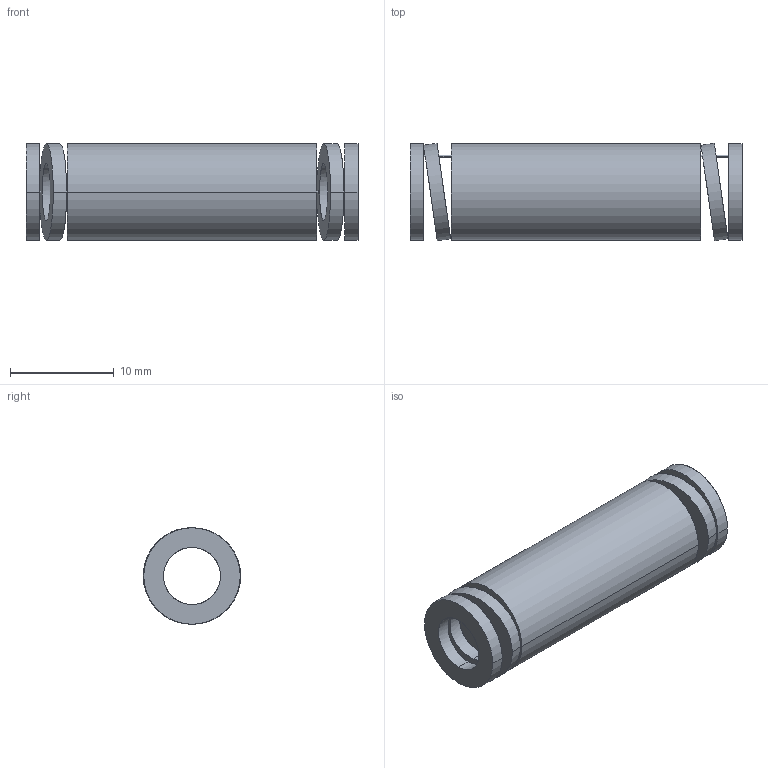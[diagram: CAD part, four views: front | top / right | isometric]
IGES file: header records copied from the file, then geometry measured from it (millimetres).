
Start section: START RECORD GO HERE.
Global section: file name: 392-B10-032.igs; native system: DASSAULT SYSTEMES CATIA V5 R20 - www.3ds.com; preprocessor: CATIA Version 5 Release 20 ; author: Utente; organization: NB04-ASUS; date: 20210812.150326; units: millimetre
Bounding box: 32 x 9.39 x 9.3 mm (x, y, z)
Surface area: 1802.9 mm2 (no closed solid volume)
Topology: 0 solids, 0 shells, 38 faces, 184 edges, 184 vertices
Faces by surface type: revolution 28, plane 10
